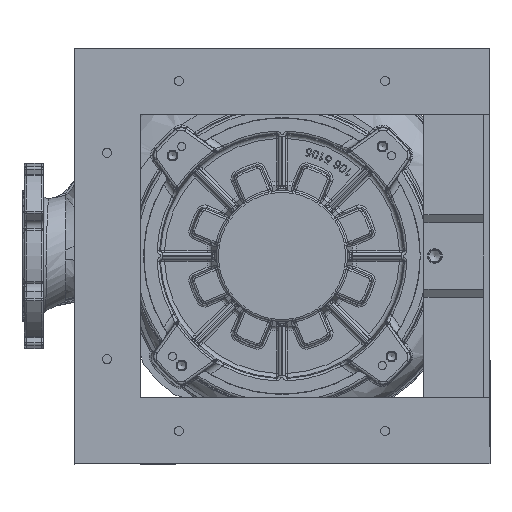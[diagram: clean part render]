
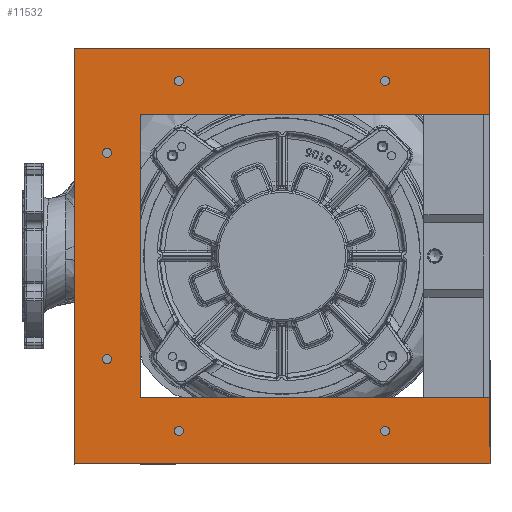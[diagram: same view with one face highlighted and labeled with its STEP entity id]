
A CAD part, front view. The second image highlights one B-rep face of the part: STEP entity #11532.
In plain terms, the highlighted planar face has unit normal (0, -1, 0).
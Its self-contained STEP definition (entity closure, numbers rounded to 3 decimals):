
#1350 = CARTESIAN_POINT ( 'NONE',  ( 0., 0., 172. ) ) ;
#1445 = VERTEX_POINT ( 'NONE', #80828 ) ;
#1639 = LINE ( 'NONE', #97518, #144373 ) ;
#2520 = DIRECTION ( 'NONE',  ( 0., 0., 1. ) ) ;
#2585 = LINE ( 'NONE', #124672, #96564 ) ;
#2718 = ORIENTED_EDGE ( 'NONE', *, *, #17663, .F. ) ;
#3719 = CARTESIAN_POINT ( 'NONE',  ( -172., 0., -172. ) ) ;
#3952 = LINE ( 'NONE', #69668, #103244 ) ;
#4635 = EDGE_CURVE ( 'NONE', #122638, #122638, #62826, .T. ) ;
#5268 = CIRCLE ( 'NONE', #63210, 5.5 ) ;
#5883 = VERTEX_POINT ( 'NONE', #3719 ) ;
#6255 = DIRECTION ( 'NONE',  ( 0., 0., -1. ) ) ;
#7141 = EDGE_LOOP ( 'NONE', ( #2718 ) ) ;
#9758 = ORIENTED_EDGE ( 'NONE', *, *, #54893, .F. ) ;
#9805 = AXIS2_PLACEMENT_3D ( 'NONE', #137614, #104610, #71115 ) ;
#11532 = ADVANCED_FACE ( 'NONE', ( #62506, #92079, #22404, #48514, #128585, #45006, #114711 ), #113749, .F. ) ;
#12341 = DIRECTION ( 'NONE',  ( 0., 0., -1. ) ) ;
#12709 = CARTESIAN_POINT ( 'NONE',  ( -125., 0., -217.5 ) ) ;
#12850 = DIRECTION ( 'NONE',  ( 0., 0., -1. ) ) ;
#13957 = EDGE_LOOP ( 'NONE', ( #139317 ) ) ;
#14401 = DIRECTION ( 'NONE',  ( 0., -1., 0. ) ) ;
#15810 = ORIENTED_EDGE ( 'NONE', *, *, #117935, .F. ) ;
#17663 = EDGE_CURVE ( 'NONE', #72182, #72182, #99936, .T. ) ;
#17945 = VERTEX_POINT ( 'NONE', #60427 ) ;
#19178 = DIRECTION ( 'NONE',  ( 0., 0., -1. ) ) ;
#20652 = DIRECTION ( 'NONE',  ( -1., 0., 0. ) ) ;
#21272 = DIRECTION ( 'NONE',  ( 0., -1., 0. ) ) ;
#22404 = FACE_BOUND ( 'NONE', #65472, .T. ) ;
#23524 = CARTESIAN_POINT ( 'NONE',  ( 252., 0., -172. ) ) ;
#23885 = VECTOR ( 'NONE', #20652, 1000. ) ;
#25981 = LINE ( 'NONE', #71611, #140719 ) ;
#28653 = CARTESIAN_POINT ( 'NONE',  ( 252., 0., 252. ) ) ;
#32572 = LINE ( 'NONE', #129869, #37758 ) ;
#34187 = EDGE_CURVE ( 'NONE', #127667, #127667, #42457, .T. ) ;
#36532 = CARTESIAN_POINT ( 'NONE',  ( -252., 0., -252. ) ) ;
#37039 = CARTESIAN_POINT ( 'NONE',  ( -172., 0., 172. ) ) ;
#37677 = DIRECTION ( 'NONE',  ( 0., 0., -1. ) ) ;
#37758 = VECTOR ( 'NONE', #117306, 1000. ) ;
#38350 = VECTOR ( 'NONE', #94723, 1000. ) ;
#38863 = EDGE_CURVE ( 'NONE', #143564, #94649, #3952, .T. ) ;
#42457 = CIRCLE ( 'NONE', #44557, 5.5 ) ;
#44557 = AXIS2_PLACEMENT_3D ( 'NONE', #91182, #136312, #12850 ) ;
#44663 = DIRECTION ( 'NONE',  ( -1., 0., 0. ) ) ;
#45006 = FACE_BOUND ( 'NONE', #7141, .T. ) ;
#45176 = ORIENTED_EDGE ( 'NONE', *, *, #72472, .F. ) ;
#46401 = CARTESIAN_POINT ( 'NONE',  ( -125., 0., 212. ) ) ;
#47477 = EDGE_CURVE ( 'NONE', #5883, #73827, #81964, .T. ) ;
#47729 = EDGE_CURVE ( 'NONE', #73827, #111743, #1639, .T. ) ;
#48514 = FACE_BOUND ( 'NONE', #85959, .T. ) ;
#53173 = CARTESIAN_POINT ( 'NONE',  ( -212., 0., -130.5 ) ) ;
#54044 = CARTESIAN_POINT ( 'NONE',  ( -125., 0., 206.5 ) ) ;
#54893 = EDGE_CURVE ( 'NONE', #111743, #113441, #114491, .T. ) ;
#55156 = ORIENTED_EDGE ( 'NONE', *, *, #67631, .F. ) ;
#55361 = ORIENTED_EDGE ( 'NONE', *, *, #47477, .F. ) ;
#55722 = DIRECTION ( 'NONE',  ( 0., -1., 0. ) ) ;
#59826 = CARTESIAN_POINT ( 'NONE',  ( 252., 0., -252. ) ) ;
#60215 = CARTESIAN_POINT ( 'NONE',  ( 252., 0., -252. ) ) ;
#60427 = CARTESIAN_POINT ( 'NONE',  ( 125., 0., 206.5 ) ) ;
#62506 = FACE_BOUND ( 'NONE', #116015, .T. ) ;
#62826 = CIRCLE ( 'NONE', #106847, 5.5 ) ;
#63210 = AXIS2_PLACEMENT_3D ( 'NONE', #46401, #55722, #12341 ) ;
#64270 = EDGE_LOOP ( 'NONE', ( #15810, #45176, #74862, #93501, #55156, #9758, #74964, #55361 ) ) ;
#64574 = EDGE_CURVE ( 'NONE', #17945, #17945, #105738, .T. ) ;
#65472 = EDGE_LOOP ( 'NONE', ( #142158 ) ) ;
#67631 = EDGE_CURVE ( 'NONE', #113441, #143564, #2585, .T. ) ;
#69668 = CARTESIAN_POINT ( 'NONE',  ( 0., 0., 252. ) ) ;
#71115 = DIRECTION ( 'NONE',  ( 0., 0., -1. ) ) ;
#71611 = CARTESIAN_POINT ( 'NONE',  ( -172., 0., 0. ) ) ;
#72182 = VERTEX_POINT ( 'NONE', #12709 ) ;
#72472 = EDGE_CURVE ( 'NONE', #1445, #94343, #103092, .T. ) ;
#73827 = VERTEX_POINT ( 'NONE', #23524 ) ;
#74862 = ORIENTED_EDGE ( 'NONE', *, *, #84518, .F. ) ;
#74964 = ORIENTED_EDGE ( 'NONE', *, *, #47729, .F. ) ;
#80202 = DIRECTION ( 'NONE',  ( 0., 0., 1. ) ) ;
#80453 = VECTOR ( 'NONE', #44663, 1000. ) ;
#80828 = CARTESIAN_POINT ( 'NONE',  ( 252., 0., 172. ) ) ;
#81964 = LINE ( 'NONE', #85456, #38350 ) ;
#82101 = CARTESIAN_POINT ( 'NONE',  ( 0., 0., -252. ) ) ;
#84518 = EDGE_CURVE ( 'NONE', #94649, #1445, #32572, .T. ) ;
#85203 = EDGE_CURVE ( 'NONE', #125902, #125902, #131684, .T. ) ;
#85456 = CARTESIAN_POINT ( 'NONE',  ( 0., 0., -172. ) ) ;
#85959 = EDGE_LOOP ( 'NONE', ( #107220 ) ) ;
#87409 = CARTESIAN_POINT ( 'NONE',  ( -212., 0., 125. ) ) ;
#91182 = CARTESIAN_POINT ( 'NONE',  ( 125., 0., -212. ) ) ;
#92079 = FACE_BOUND ( 'NONE', #106740, .T. ) ;
#92833 = DIRECTION ( 'NONE',  ( 0., 1., 0. ) ) ;
#93501 = ORIENTED_EDGE ( 'NONE', *, *, #38863, .F. ) ;
#94343 = VERTEX_POINT ( 'NONE', #37039 ) ;
#94649 = VERTEX_POINT ( 'NONE', #28653 ) ;
#94723 = DIRECTION ( 'NONE',  ( 1., 0., 0. ) ) ;
#96564 = VECTOR ( 'NONE', #2520, 1000. ) ;
#97518 = CARTESIAN_POINT ( 'NONE',  ( 252., 0., 0. ) ) ;
#99936 = CIRCLE ( 'NONE', #9805, 5.5 ) ;
#100560 = DIRECTION ( 'NONE',  ( 0., 0., -1. ) ) ;
#103092 = LINE ( 'NONE', #1350, #80453 ) ;
#103244 = VECTOR ( 'NONE', #136133, 1000. ) ;
#103368 = DIRECTION ( 'NONE',  ( 0., 0., -1. ) ) ;
#104610 = DIRECTION ( 'NONE',  ( 0., -1., 0. ) ) ;
#105014 = AXIS2_PLACEMENT_3D ( 'NONE', #87409, #21272, #100560 ) ;
#105025 = AXIS2_PLACEMENT_3D ( 'NONE', #134450, #125256, #103368 ) ;
#105738 = CIRCLE ( 'NONE', #105025, 5.5 ) ;
#106740 = EDGE_LOOP ( 'NONE', ( #137318 ) ) ;
#106847 = AXIS2_PLACEMENT_3D ( 'NONE', #125323, #14401, #37677 ) ;
#107220 = ORIENTED_EDGE ( 'NONE', *, *, #4635, .F. ) ;
#111743 = VERTEX_POINT ( 'NONE', #60215 ) ;
#112855 = CARTESIAN_POINT ( 'NONE',  ( -252., 0., 252. ) ) ;
#113441 = VERTEX_POINT ( 'NONE', #36532 ) ;
#113749 = PLANE ( 'NONE',  #132690 ) ;
#114384 = CARTESIAN_POINT ( 'NONE',  ( 125., 0., -217.5 ) ) ;
#114491 = LINE ( 'NONE', #82101, #23885 ) ;
#114711 = FACE_OUTER_BOUND ( 'NONE', #64270, .T. ) ;
#116015 = EDGE_LOOP ( 'NONE', ( #125536 ) ) ;
#117306 = DIRECTION ( 'NONE',  ( 0., 0., -1. ) ) ;
#117935 = EDGE_CURVE ( 'NONE', #94343, #5883, #25981, .T. ) ;
#122638 = VERTEX_POINT ( 'NONE', #53173 ) ;
#124672 = CARTESIAN_POINT ( 'NONE',  ( -252., 0., 0. ) ) ;
#125256 = DIRECTION ( 'NONE',  ( 0., -1., 0. ) ) ;
#125323 = CARTESIAN_POINT ( 'NONE',  ( -212., 0., -125. ) ) ;
#125536 = ORIENTED_EDGE ( 'NONE', *, *, #125544, .F. ) ;
#125544 = EDGE_CURVE ( 'NONE', #131644, #131644, #5268, .T. ) ;
#125902 = VERTEX_POINT ( 'NONE', #126985 ) ;
#126985 = CARTESIAN_POINT ( 'NONE',  ( -212., 0., 119.5 ) ) ;
#127667 = VERTEX_POINT ( 'NONE', #114384 ) ;
#128585 = FACE_BOUND ( 'NONE', #13957, .T. ) ;
#129869 = CARTESIAN_POINT ( 'NONE',  ( 252., 0., 0. ) ) ;
#131644 = VERTEX_POINT ( 'NONE', #54044 ) ;
#131684 = CIRCLE ( 'NONE', #105014, 5.5 ) ;
#132690 = AXIS2_PLACEMENT_3D ( 'NONE', #59826, #92833, #80202 ) ;
#134450 = CARTESIAN_POINT ( 'NONE',  ( 125., 0., 212. ) ) ;
#136133 = DIRECTION ( 'NONE',  ( 1., 0., 0. ) ) ;
#136312 = DIRECTION ( 'NONE',  ( 0., -1., 0. ) ) ;
#137318 = ORIENTED_EDGE ( 'NONE', *, *, #64574, .F. ) ;
#137614 = CARTESIAN_POINT ( 'NONE',  ( -125., 0., -212. ) ) ;
#139317 = ORIENTED_EDGE ( 'NONE', *, *, #34187, .F. ) ;
#140719 = VECTOR ( 'NONE', #6255, 1000. ) ;
#142158 = ORIENTED_EDGE ( 'NONE', *, *, #85203, .F. ) ;
#143564 = VERTEX_POINT ( 'NONE', #112855 ) ;
#144373 = VECTOR ( 'NONE', #19178, 1000. ) ;
